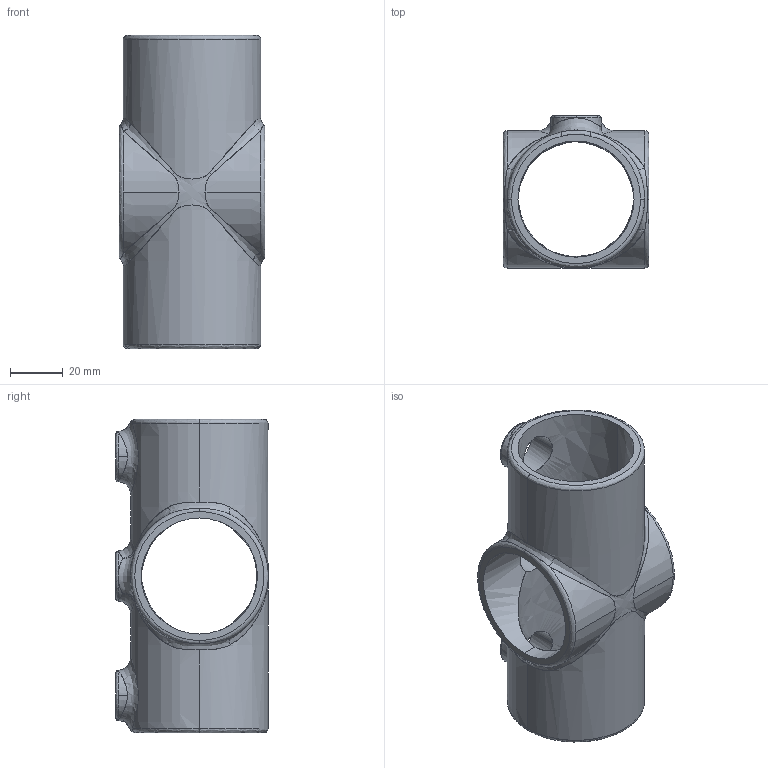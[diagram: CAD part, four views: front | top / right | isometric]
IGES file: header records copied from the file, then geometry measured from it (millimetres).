
Global section: file name: C:\Documents and Settings\Administrator\Desktop\Transfer Temp\kk26-7.igs; native system: AutoDesk Inventor R2.0 ; preprocessor: AutoDesk Inventor Iges Exporter R2.0; author: No Author specified; organization: No Organization specified; date: 20020101.003159; units: inch
Bounding box: 55.5 x 57.93 x 119.38 mm (x, y, z)
Surface area: 37317.4 mm2 (no closed solid volume)
Topology: 0 solids, 0 shells, 80 faces, 485 edges, 481 vertices
Faces by surface type: bspline 46, revolution 34
